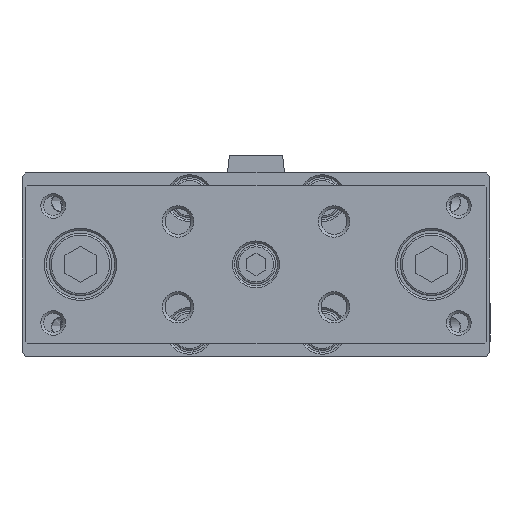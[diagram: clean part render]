
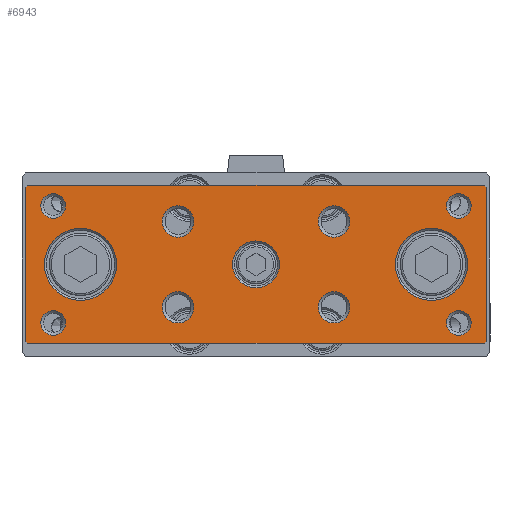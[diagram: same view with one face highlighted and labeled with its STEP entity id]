
A CAD part, top view. The second image highlights one B-rep face of the part: STEP entity #6943.
In plain terms, the highlighted planar face has unit normal (0, 0, 1).
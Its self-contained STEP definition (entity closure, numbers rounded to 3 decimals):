
#6725=CARTESIAN_POINT('',(-62.226,-20.37,166.));
#6726=VERTEX_POINT('',#6725);
#6727=CARTESIAN_POINT('',(-62.726,-19.87,166.));
#6728=VERTEX_POINT('',#6727);
#6729=CARTESIAN_POINT('',(-62.226,-20.37,166.));
#6730=DIRECTION('',(-0.707,0.707,0.0));
#6731=VECTOR('',#6730,0.707);
#6732=LINE('',#6729,#6731);
#6733=EDGE_CURVE('',#6726,#6728,#6732,.T.);
#6760=CARTESIAN_POINT('',(-3.726,-0.12,166.));
#6761=DIRECTION('',(0.0,0.0,1.0));
#6762=DIRECTION('',(1.0,0.0,0.0));
#6763=AXIS2_PLACEMENT_3D('',#6760,#6761,#6762);
#6764=PLANE('',#6763);
#6765=ORIENTED_EDGE('',*,*,#6733,.F.);
#6766=CARTESIAN_POINT('',(54.774,-20.37,166.));
#6767=VERTEX_POINT('',#6766);
#6768=CARTESIAN_POINT('',(54.774,-20.37,166.));
#6769=DIRECTION('',(-1.0,0.0,0.0));
#6770=VECTOR('',#6769,117.0);
#6771=LINE('',#6768,#6770);
#6772=EDGE_CURVE('',#6767,#6726,#6771,.T.);
#6773=ORIENTED_EDGE('',*,*,#6772,.F.);
#6774=CARTESIAN_POINT('',(55.274,-19.87,166.));
#6775=VERTEX_POINT('',#6774);
#6776=CARTESIAN_POINT('',(55.274,-19.87,166.));
#6777=DIRECTION('',(-0.707,-0.707,0.0));
#6778=VECTOR('',#6777,0.707);
#6779=LINE('',#6776,#6778);
#6780=EDGE_CURVE('',#6775,#6767,#6779,.T.);
#6781=ORIENTED_EDGE('',*,*,#6780,.F.);
#6782=CARTESIAN_POINT('',(55.274,19.63,166.));
#6783=VERTEX_POINT('',#6782);
#6784=CARTESIAN_POINT('',(55.274,19.63,166.));
#6785=DIRECTION('',(0.0,-1.0,0.0));
#6786=VECTOR('',#6785,39.5);
#6787=LINE('',#6784,#6786);
#6788=EDGE_CURVE('',#6783,#6775,#6787,.T.);
#6789=ORIENTED_EDGE('',*,*,#6788,.F.);
#6790=CARTESIAN_POINT('',(54.774,20.13,166.));
#6791=VERTEX_POINT('',#6790);
#6792=CARTESIAN_POINT('',(54.774,20.13,166.));
#6793=DIRECTION('',(0.707,-0.707,0.0));
#6794=VECTOR('',#6793,0.707);
#6795=LINE('',#6792,#6794);
#6796=EDGE_CURVE('',#6791,#6783,#6795,.T.);
#6797=ORIENTED_EDGE('',*,*,#6796,.F.);
#6798=CARTESIAN_POINT('',(-62.226,20.13,166.));
#6799=VERTEX_POINT('',#6798);
#6800=CARTESIAN_POINT('',(-62.226,20.13,166.));
#6801=DIRECTION('',(1.0,0.0,0.0));
#6802=VECTOR('',#6801,117.0);
#6803=LINE('',#6800,#6802);
#6804=EDGE_CURVE('',#6799,#6791,#6803,.T.);
#6805=ORIENTED_EDGE('',*,*,#6804,.F.);
#6806=CARTESIAN_POINT('',(-62.726,19.63,166.));
#6807=VERTEX_POINT('',#6806);
#6808=CARTESIAN_POINT('',(-62.726,19.63,166.));
#6809=DIRECTION('',(0.707,0.707,0.0));
#6810=VECTOR('',#6809,0.707);
#6811=LINE('',#6808,#6810);
#6812=EDGE_CURVE('',#6807,#6799,#6811,.T.);
#6813=ORIENTED_EDGE('',*,*,#6812,.F.);
#6814=CARTESIAN_POINT('',(-62.726,-19.87,166.));
#6815=DIRECTION('',(0.0,1.0,0.0));
#6816=VECTOR('',#6815,39.5);
#6817=LINE('',#6814,#6816);
#6818=EDGE_CURVE('',#6728,#6807,#6817,.T.);
#6819=ORIENTED_EDGE('',*,*,#6818,.F.);
#6820=EDGE_LOOP('',(#6765,#6773,#6781,#6789,#6797,#6805,#6813,#6819));
#6821=FACE_OUTER_BOUND('',#6820,.T.);
#6822=CARTESIAN_POINT('',(50.524,-0.12,166.));
#6823=VERTEX_POINT('',#6822);
#6824=CARTESIAN_POINT('',(41.274,-0.12,166.));
#6825=DIRECTION('',(0.0,0.0,1.0));
#6826=DIRECTION('',(-1.0,0.0,0.0));
#6827=AXIS2_PLACEMENT_3D('',#6824,#6825,#6826);
#6828=CIRCLE('',#6827,9.25);
#6829=EDGE_CURVE('',#6823,#6823,#6828,.T.);
#6830=ORIENTED_EDGE('',*,*,#6829,.F.);
#6831=EDGE_LOOP('',(#6830));
#6832=FACE_BOUND('',#6831,.T.);
#6833=CARTESIAN_POINT('',(2.274,-0.12,166.));
#6834=VERTEX_POINT('',#6833);
#6835=CARTESIAN_POINT('',(-3.726,-0.12,166.));
#6836=DIRECTION('',(0.0,0.0,1.0));
#6837=DIRECTION('',(-1.0,0.0,0.0));
#6838=AXIS2_PLACEMENT_3D('',#6835,#6836,#6837);
#6839=CIRCLE('',#6838,6.);
#6840=EDGE_CURVE('',#6834,#6834,#6839,.T.);
#6841=ORIENTED_EDGE('',*,*,#6840,.F.);
#6842=EDGE_LOOP('',(#6841));
#6843=FACE_BOUND('',#6842,.T.);
#6844=CARTESIAN_POINT('',(20.298,-11.12,166.));
#6845=VERTEX_POINT('',#6844);
#6846=CARTESIAN_POINT('',(16.274,-11.12,166.));
#6847=DIRECTION('',(0.0,0.0,1.0));
#6848=DIRECTION('',(-1.0,0.0,0.0));
#6849=AXIS2_PLACEMENT_3D('',#6846,#6847,#6848);
#6850=CIRCLE('',#6849,4.024);
#6851=EDGE_CURVE('',#6845,#6845,#6850,.T.);
#6852=ORIENTED_EDGE('',*,*,#6851,.F.);
#6853=EDGE_LOOP('',(#6852));
#6854=FACE_BOUND('',#6853,.T.);
#6855=CARTESIAN_POINT('',(-19.702,-11.12,166.));
#6856=VERTEX_POINT('',#6855);
#6857=CARTESIAN_POINT('',(-23.726,-11.12,166.));
#6858=DIRECTION('',(0.0,0.0,1.0));
#6859=DIRECTION('',(-1.0,0.0,0.0));
#6860=AXIS2_PLACEMENT_3D('',#6857,#6858,#6859);
#6861=CIRCLE('',#6860,4.023);
#6862=EDGE_CURVE('',#6856,#6856,#6861,.T.);
#6863=ORIENTED_EDGE('',*,*,#6862,.F.);
#6864=EDGE_LOOP('',(#6863));
#6865=FACE_BOUND('',#6864,.T.);
#6866=CARTESIAN_POINT('',(20.298,10.88,166.));
#6867=VERTEX_POINT('',#6866);
#6868=CARTESIAN_POINT('',(16.274,10.88,166.));
#6869=DIRECTION('',(0.0,0.0,1.0));
#6870=DIRECTION('',(-1.0,0.0,0.0));
#6871=AXIS2_PLACEMENT_3D('',#6868,#6869,#6870);
#6872=CIRCLE('',#6871,4.024);
#6873=EDGE_CURVE('',#6867,#6867,#6872,.T.);
#6874=ORIENTED_EDGE('',*,*,#6873,.F.);
#6875=EDGE_LOOP('',(#6874));
#6876=FACE_BOUND('',#6875,.T.);
#6877=CARTESIAN_POINT('',(-19.702,10.88,166.));
#6878=VERTEX_POINT('',#6877);
#6879=CARTESIAN_POINT('',(-23.726,10.88,166.));
#6880=DIRECTION('',(0.0,0.0,1.0));
#6881=DIRECTION('',(-1.0,0.0,0.0));
#6882=AXIS2_PLACEMENT_3D('',#6879,#6880,#6881);
#6883=CIRCLE('',#6882,4.023);
#6884=EDGE_CURVE('',#6878,#6878,#6883,.T.);
#6885=ORIENTED_EDGE('',*,*,#6884,.F.);
#6886=EDGE_LOOP('',(#6885));
#6887=FACE_BOUND('',#6886,.T.);
#6888=CARTESIAN_POINT('',(51.433,14.88,166.));
#6889=VERTEX_POINT('',#6888);
#6890=CARTESIAN_POINT('',(48.274,14.88,166.));
#6891=DIRECTION('',(0.0,0.0,1.0));
#6892=DIRECTION('',(-1.0,0.0,0.0));
#6893=AXIS2_PLACEMENT_3D('',#6890,#6891,#6892);
#6894=CIRCLE('',#6893,3.159);
#6895=EDGE_CURVE('',#6889,#6889,#6894,.T.);
#6896=ORIENTED_EDGE('',*,*,#6895,.F.);
#6897=EDGE_LOOP('',(#6896));
#6898=FACE_BOUND('',#6897,.T.);
#6899=CARTESIAN_POINT('',(51.433,-15.12,166.));
#6900=VERTEX_POINT('',#6899);
#6901=CARTESIAN_POINT('',(48.274,-15.12,166.));
#6902=DIRECTION('',(0.0,0.0,1.0));
#6903=DIRECTION('',(-1.0,0.0,0.0));
#6904=AXIS2_PLACEMENT_3D('',#6901,#6902,#6903);
#6905=CIRCLE('',#6904,3.159);
#6906=EDGE_CURVE('',#6900,#6900,#6905,.T.);
#6907=ORIENTED_EDGE('',*,*,#6906,.F.);
#6908=EDGE_LOOP('',(#6907));
#6909=FACE_BOUND('',#6908,.T.);
#6910=CARTESIAN_POINT('',(-52.567,-15.12,166.));
#6911=VERTEX_POINT('',#6910);
#6912=CARTESIAN_POINT('',(-55.726,-15.12,166.));
#6913=DIRECTION('',(0.0,0.0,1.0));
#6914=DIRECTION('',(-1.0,0.0,0.0));
#6915=AXIS2_PLACEMENT_3D('',#6912,#6913,#6914);
#6916=CIRCLE('',#6915,3.159);
#6917=EDGE_CURVE('',#6911,#6911,#6916,.T.);
#6918=ORIENTED_EDGE('',*,*,#6917,.F.);
#6919=EDGE_LOOP('',(#6918));
#6920=FACE_BOUND('',#6919,.T.);
#6921=CARTESIAN_POINT('',(-52.567,14.88,166.));
#6922=VERTEX_POINT('',#6921);
#6923=CARTESIAN_POINT('',(-55.726,14.88,166.));
#6924=DIRECTION('',(0.0,0.0,1.0));
#6925=DIRECTION('',(-1.0,0.0,0.0));
#6926=AXIS2_PLACEMENT_3D('',#6923,#6924,#6925);
#6927=CIRCLE('',#6926,3.159);
#6928=EDGE_CURVE('',#6922,#6922,#6927,.T.);
#6929=ORIENTED_EDGE('',*,*,#6928,.F.);
#6930=EDGE_LOOP('',(#6929));
#6931=FACE_BOUND('',#6930,.T.);
#6932=CARTESIAN_POINT('',(-39.476,-0.12,166.));
#6933=VERTEX_POINT('',#6932);
#6934=CARTESIAN_POINT('',(-48.726,-0.12,166.));
#6935=DIRECTION('',(0.0,0.0,1.0));
#6936=DIRECTION('',(-1.0,0.0,0.0));
#6937=AXIS2_PLACEMENT_3D('',#6934,#6935,#6936);
#6938=CIRCLE('',#6937,9.25);
#6939=EDGE_CURVE('',#6933,#6933,#6938,.T.);
#6940=ORIENTED_EDGE('',*,*,#6939,.F.);
#6941=EDGE_LOOP('',(#6940));
#6942=FACE_BOUND('',#6941,.T.);
#6943=ADVANCED_FACE('',(#6821,#6832,#6843,#6854,#6865,#6876,#6887,#6898,#6909,#6920,#6931,#6942),#6764,.T.);
